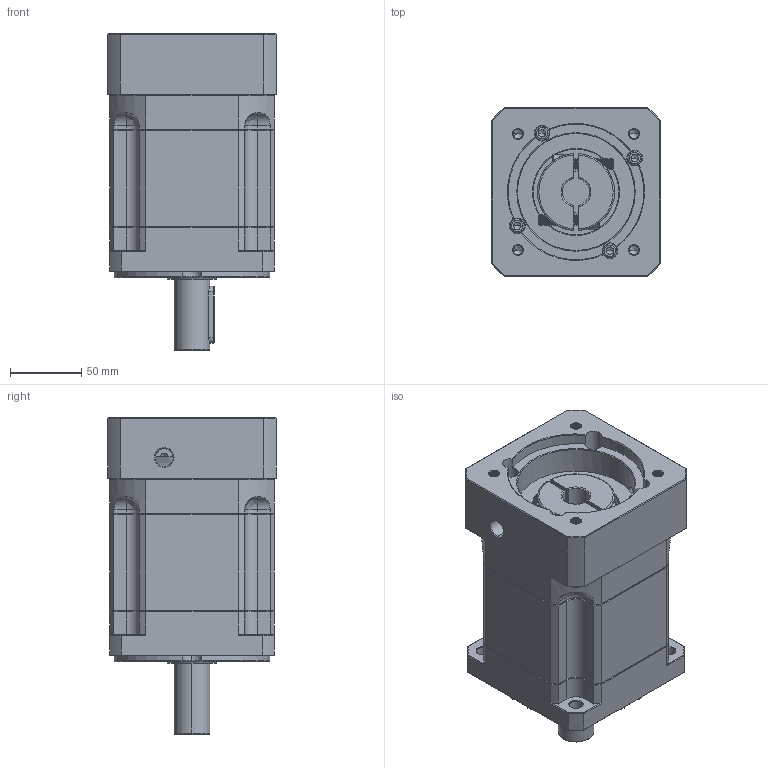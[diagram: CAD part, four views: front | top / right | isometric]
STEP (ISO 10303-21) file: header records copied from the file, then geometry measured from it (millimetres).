
FILE_DESCRIPTION (( 'STEP AP214' ), '1' );
FILE_NAME ('ZB115A-D25-L2-19-95-115-M8.step', '2023-03-02T08:57:06', ( '' ), ( 'Microsoft' ), 'SwSTEP 2.0', 'SolidWorks 2016', '' );
FILE_SCHEMA (( 'AUTOMOTIVE_DESIGN' ));
Length unit declared in the file: millimetre
Products named in the file (1): ZB115A-D25-L2-19-95-115-M8
Bounding box: 118 x 118 x 222 mm (x, y, z)
Volume: 1918951.2 mm3; surface area: 180924.4 mm2
Topology: 6 solids, 6 shells, 2142 faces, 5580 edges, 3527 vertices
Faces by surface type: plane 964, cylinder 450, cone 383, bspline 345
Entity records: 114476 total; most frequent: CARTESIAN_POINT 41371, ORIENTED_EDGE 11092, DIRECTION 9087, EDGE_CURVE 5546, VERTEX_POINT 3527, LINE 3389, VECTOR 3389, AXIS2_PLACEMENT_3D 2849
